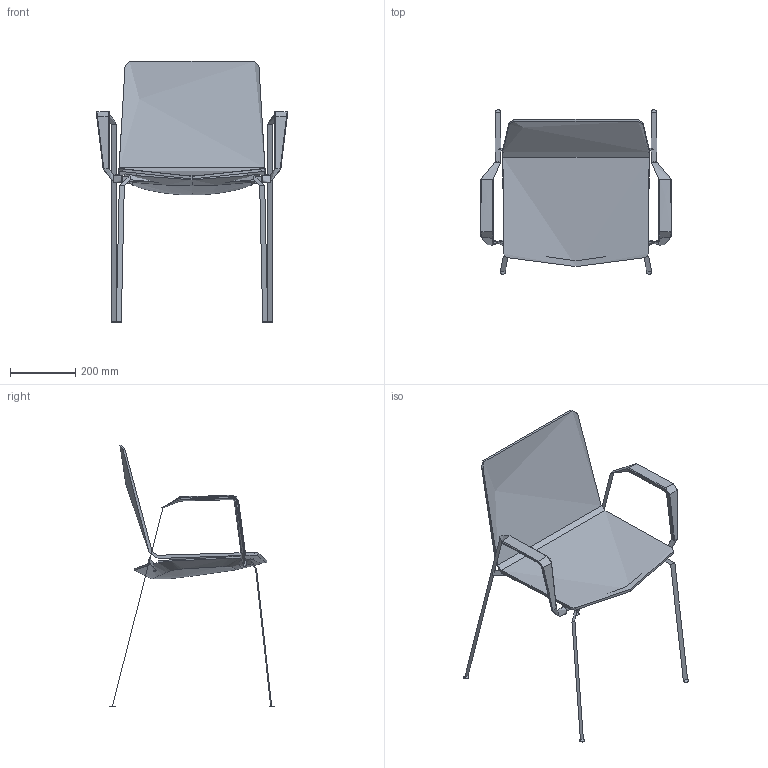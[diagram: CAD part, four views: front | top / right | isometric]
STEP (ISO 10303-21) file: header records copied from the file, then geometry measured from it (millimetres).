
FILE_DESCRIPTION(/* description */ (''),/* implementation_level */ '2;1');
FILE_NAME(/* name */ 'SKYFRE~1',/* time_stamp */ '2015-12-09T16:15:35+01:00',/* author */ (''),/* organization */ (''),/* preprocessor_version */ 'ST-DEVELOPER v15',/* originating_system */ '',/* authorisation */ '');
FILE_SCHEMA (('CONFIG_CONTROL_DESIGN'));
Length unit declared in the file: millimetre
Products named in the file (1): Document
Bounding box: 588.94 x 506.3 x 803.23 mm (x, y, z)
Volume: 3092149.8 mm3; surface area: 1144366.8 mm2
Topology: 5 solids, 22 shells, 177 faces, 413 edges, 254 vertices
Faces by surface type: bspline 151, plane 26
Entity records: 12674 total; most frequent: CARTESIAN_POINT 10286, ORIENTED_EDGE 754, EDGE_CURVE 410, VERTEX_POINT 254, ADVANCED_FACE 177, FACE_OUTER_BOUND 177, EDGE_LOOP 177, B_SPLINE_CURVE_WITH_KNOTS 168
